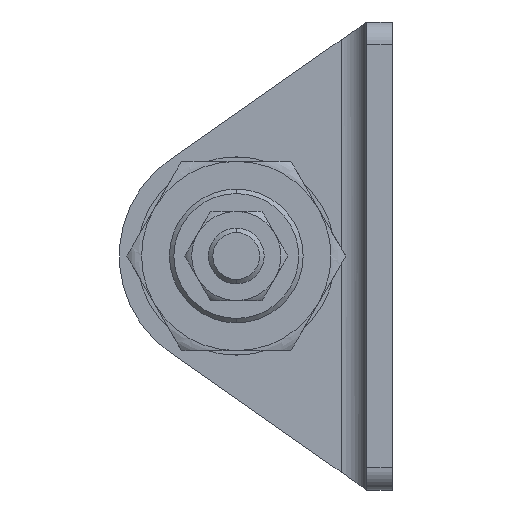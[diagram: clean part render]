
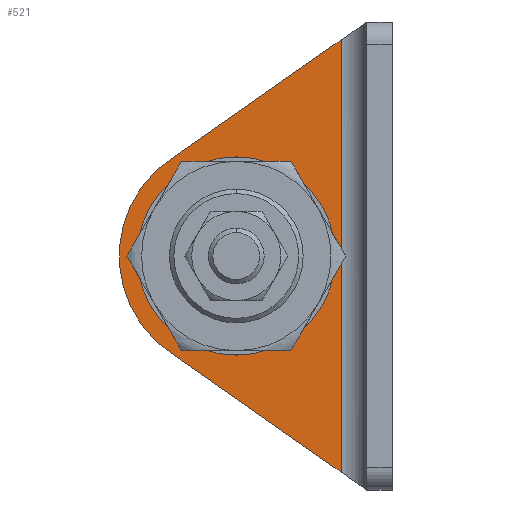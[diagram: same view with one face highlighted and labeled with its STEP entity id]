
A CAD part, left-side view. The second image highlights one B-rep face of the part: STEP entity #521.
In plain terms, the highlighted planar face has unit normal (-1, 0, 0).
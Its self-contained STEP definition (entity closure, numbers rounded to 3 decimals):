
#1 = EDGE_CURVE ( 'NONE', #729, #3397, #1726, .T. ) ;
#111 = ORIENTED_EDGE ( 'NONE', *, *, #1, .F. ) ;
#312 = AXIS2_PLACEMENT_3D ( 'NONE', #3531, #1499, #1158 ) ;
#454 = VERTEX_POINT ( 'NONE', #1451 ) ;
#521 = ADVANCED_FACE ( 'NONE', ( #1257, #1789 ), #1199, .T. ) ;
#579 = CARTESIAN_POINT ( 'NONE',  ( -2.3, 5.1, 0. ) ) ;
#619 = CIRCLE ( 'NONE', #312, 10.5 ) ;
#635 = ORIENTED_EDGE ( 'NONE', *, *, #3518, .F. ) ;
#650 = VECTOR ( 'NONE', #1544, 1000. ) ;
#688 = DIRECTION ( 'NONE',  ( 0., -1., 0. ) ) ;
#716 = LINE ( 'NONE', #2465, #1779 ) ;
#729 = VERTEX_POINT ( 'NONE', #579 ) ;
#788 = ORIENTED_EDGE ( 'NONE', *, *, #3766, .T. ) ;
#947 = EDGE_CURVE ( 'NONE', #2310, #986, #3959, .T. ) ;
#967 = CARTESIAN_POINT ( 'NONE',  ( -2.3, 20.019, -8.604 ) ) ;
#986 = VERTEX_POINT ( 'NONE', #3910 ) ;
#998 = CARTESIAN_POINT ( 'NONE',  ( -2.3, 4.6, 21. ) ) ;
#1012 = CARTESIAN_POINT ( 'NONE',  ( -2.3, 2.3, 21. ) ) ;
#1093 = DIRECTION ( 'NONE',  ( 0., -0.819, -0.573 ) ) ;
#1096 = AXIS2_PLACEMENT_3D ( 'NONE', #2772, #3026, #688 ) ;
#1158 = DIRECTION ( 'NONE',  ( 0., -1., 0. ) ) ;
#1199 = PLANE ( 'NONE',  #1096 ) ;
#1220 = DIRECTION ( 'NONE',  ( -1., 0., 0. ) ) ;
#1254 = VERTEX_POINT ( 'NONE', #967 ) ;
#1257 = FACE_BOUND ( 'NONE', #2479, .T. ) ;
#1285 = CARTESIAN_POINT ( 'NONE',  ( -2.3, 14., 0. ) ) ;
#1451 = CARTESIAN_POINT ( 'NONE',  ( -2.3, 4.6, -19.391 ) ) ;
#1499 = DIRECTION ( 'NONE',  ( -1., 0., 0. ) ) ;
#1503 = ORIENTED_EDGE ( 'NONE', *, *, #947, .T. ) ;
#1527 = ORIENTED_EDGE ( 'NONE', *, *, #2347, .T. ) ;
#1544 = DIRECTION ( 'NONE',  ( 0., 0.819, -0.573 ) ) ;
#1609 = CIRCLE ( 'NONE', #2066, 8.9 ) ;
#1620 = DIRECTION ( 'NONE',  ( -1., 0., 0. ) ) ;
#1725 = LINE ( 'NONE', #998, #2891 ) ;
#1726 = CIRCLE ( 'NONE', #2815, 8.9 ) ;
#1779 = VECTOR ( 'NONE', #1093, 1000. ) ;
#1789 = FACE_OUTER_BOUND ( 'NONE', #3108, .T. ) ;
#2001 = DIRECTION ( 'NONE',  ( 0., -1., 0. ) ) ;
#2066 = AXIS2_PLACEMENT_3D ( 'NONE', #1285, #1620, #3855 ) ;
#2099 = DIRECTION ( 'NONE',  ( 0., 0., -1. ) ) ;
#2310 = VERTEX_POINT ( 'NONE', #2527 ) ;
#2347 = EDGE_CURVE ( 'NONE', #986, #1254, #619, .T. ) ;
#2415 = EDGE_CURVE ( 'NONE', #2310, #454, #1725, .T. ) ;
#2465 = CARTESIAN_POINT ( 'NONE',  ( -2.3, 22.028, -7.198 ) ) ;
#2479 = EDGE_LOOP ( 'NONE', ( #111, #635 ) ) ;
#2527 = CARTESIAN_POINT ( 'NONE',  ( -2.3, 4.6, 19.391 ) ) ;
#2772 = CARTESIAN_POINT ( 'NONE',  ( -2.3, 2.3, 21. ) ) ;
#2815 = AXIS2_PLACEMENT_3D ( 'NONE', #3537, #1220, #2001 ) ;
#2891 = VECTOR ( 'NONE', #2099, 1000. ) ;
#2999 = CARTESIAN_POINT ( 'NONE',  ( -2.3, 22.9, 0. ) ) ;
#3026 = DIRECTION ( 'NONE',  ( -1., 0., 0. ) ) ;
#3108 = EDGE_LOOP ( 'NONE', ( #1503, #1527, #788, #3278 ) ) ;
#3278 = ORIENTED_EDGE ( 'NONE', *, *, #2415, .F. ) ;
#3397 = VERTEX_POINT ( 'NONE', #2999 ) ;
#3518 = EDGE_CURVE ( 'NONE', #3397, #729, #1609, .T. ) ;
#3531 = CARTESIAN_POINT ( 'NONE',  ( -2.3, 14., 0. ) ) ;
#3537 = CARTESIAN_POINT ( 'NONE',  ( -2.3, 14., 0. ) ) ;
#3766 = EDGE_CURVE ( 'NONE', #1254, #454, #716, .T. ) ;
#3855 = DIRECTION ( 'NONE',  ( 0., -1., 0. ) ) ;
#3910 = CARTESIAN_POINT ( 'NONE',  ( -2.3, 20.019, 8.604 ) ) ;
#3959 = LINE ( 'NONE', #1012, #650 ) ;
